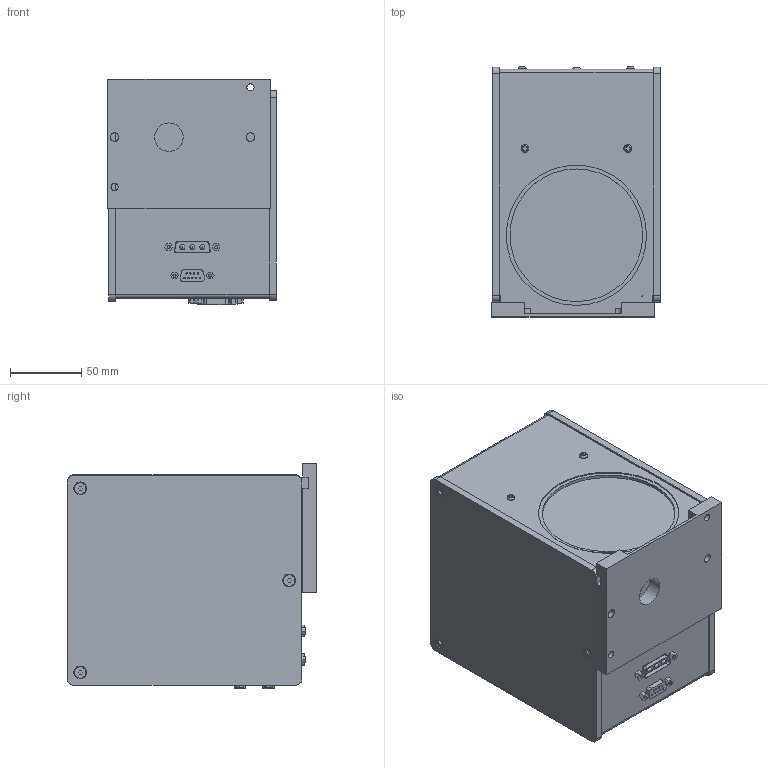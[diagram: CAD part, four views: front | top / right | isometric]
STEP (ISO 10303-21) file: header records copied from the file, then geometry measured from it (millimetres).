
FILE_DESCRIPTION( ( 'Unknown' ), '1' );
FILE_NAME( 'I:/Entwicklung/Mechanik/cad/Dokumentation extern 3D/2D_Scan Systems/intelliSCAN/intelliSCAN 14/GB-62-63 (SL2-100) ohne KB-Bohrungen/intelliSCAN 14.stp', 'Unknown', ( 'Unknown' ), ( 'Unknown' ), 'PSStep 16.0.42', 'Unknown', ' ' );
FILE_SCHEMA( ( 'AUTOMOTIVE_DESIGN { 1 0 10303 214 1 1 1 1 }' ) );
Length unit declared in the file: millimetre
Products named in the file (1): 1_1
Bounding box: 117.97 x 175.15 x 158.4 mm (x, y, z)
Volume: 2808655 mm3; surface area: 190286.4 mm2
Topology: 1 solids, 43 shells, 1076 faces, 2754 edges, 1838 vertices
Faces by surface type: plane 891, cylinder 147, cone 24, bspline 14
Full cylindrical faces by diameter (mm): 1 x18, 2.156 x8, 2.5 x5, 3.6 x6, 4 x6, 4.3 x6, 5 x2, 5.5 x8, 6 x2, 20 x1, 93 x1, 98.3 x1
Entity records: 32798 total; most frequent: CARTESIAN_POINT 5881, ORIENTED_EDGE 5202, DIRECTION 5058, EDGE_CURVE 2601, LINE 2246, VECTOR 2246, VERTEX_POINT 1785, AXIS2_PLACEMENT_3D 1406
